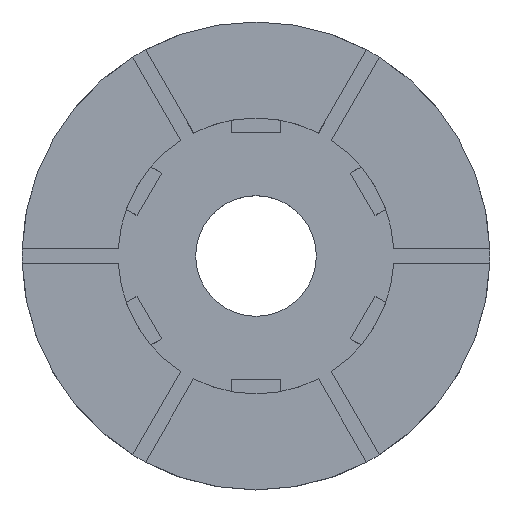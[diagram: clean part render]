
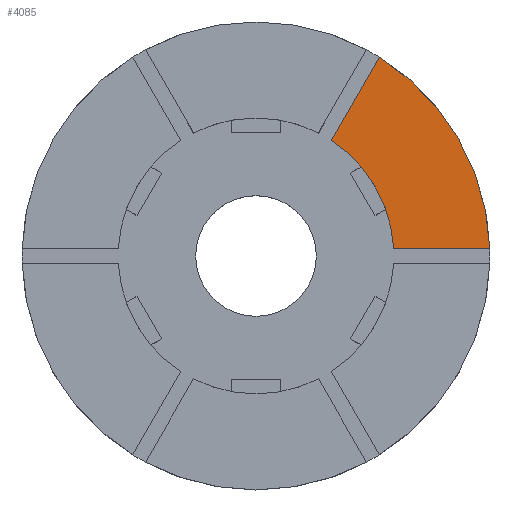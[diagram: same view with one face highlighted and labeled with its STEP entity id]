
A CAD part, top view. The second image highlights one B-rep face of the part: STEP entity #4085.
In plain terms, the highlighted planar face has unit normal (0, 0, 1).
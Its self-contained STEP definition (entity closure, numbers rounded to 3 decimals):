
#31 = CYLINDRICAL_SURFACE('',#32,9.5);
#32 = AXIS2_PLACEMENT_3D('',#33,#34,#35);
#33 = CARTESIAN_POINT('',(0.,0.,124.7));
#34 = DIRECTION('',(0.,0.,1.));
#35 = DIRECTION('',(1.,0.,-0.));
#633 = VERTEX_POINT('',#634);
#634 = CARTESIAN_POINT('',(5.007,8.073,127.5));
#647 = PLANE('',#648);
#648 = AXIS2_PLACEMENT_3D('',#649,#650,#651);
#649 = CARTESIAN_POINT('',(2.76,4.18,125.6));
#650 = DIRECTION('',(-0.866,0.5,0.));
#651 = DIRECTION('',(0.,0.,1.));
#658 = EDGE_CURVE('',#659,#633,#661,.T.);
#659 = VERTEX_POINT('',#660);
#660 = CARTESIAN_POINT('',(9.495,0.3,127.5));
#661 = SURFACE_CURVE('',#662,(#667,#674),.PCURVE_S1.);
#662 = CIRCLE('',#663,9.5);
#663 = AXIS2_PLACEMENT_3D('',#664,#665,#666);
#664 = CARTESIAN_POINT('',(0.,0.,127.5));
#665 = DIRECTION('',(0.,0.,1.));
#666 = DIRECTION('',(1.,0.,-0.));
#667 = PCURVE('',#31,#668);
#668 = DEFINITIONAL_REPRESENTATION('',(#669),#673);
#669 = LINE('',#670,#671);
#670 = CARTESIAN_POINT('',(0.,2.8));
#671 = VECTOR('',#672,1.);
#672 = DIRECTION('',(1.,0.));
#673 = ( GEOMETRIC_REPRESENTATION_CONTEXT(2) 
PARAMETRIC_REPRESENTATION_CONTEXT() REPRESENTATION_CONTEXT('2D SPACE',''
  ) );
#674 = PCURVE('',#675,#680);
#675 = PLANE('',#676);
#676 = AXIS2_PLACEMENT_3D('',#677,#678,#679);
#677 = CARTESIAN_POINT('',(0.,0.,127.5));
#678 = DIRECTION('',(0.,0.,1.));
#679 = DIRECTION('',(1.,0.,-0.));
#680 = DEFINITIONAL_REPRESENTATION('',(#681),#685);
#681 = CIRCLE('',#682,9.5);
#682 = AXIS2_PLACEMENT_2D('',#683,#684);
#683 = CARTESIAN_POINT('',(0.,0.));
#684 = DIRECTION('',(1.,0.));
#685 = ( GEOMETRIC_REPRESENTATION_CONTEXT(2) 
PARAMETRIC_REPRESENTATION_CONTEXT() REPRESENTATION_CONTEXT('2D SPACE',''
  ) );
#702 = PLANE('',#703);
#703 = AXIS2_PLACEMENT_3D('',#704,#705,#706);
#704 = CARTESIAN_POINT('',(5.,0.3,125.6));
#705 = DIRECTION('',(0.,1.,0.));
#706 = DIRECTION('',(0.,0.,1.));
#815 = CYLINDRICAL_SURFACE('',#816,5.6);
#816 = AXIS2_PLACEMENT_3D('',#817,#818,#819);
#817 = CARTESIAN_POINT('',(0.,0.,125.6));
#818 = DIRECTION('',(0.,0.,1.));
#819 = DIRECTION('',(1.,0.,-0.));
#3723 = VERTEX_POINT('',#3724);
#3724 = CARTESIAN_POINT('',(3.056,4.693,127.5));
#3743 = EDGE_CURVE('',#633,#3723,#3744,.T.);
#3744 = SURFACE_CURVE('',#3745,(#3749,#3755),.PCURVE_S1.);
#3745 = LINE('',#3746,#3747);
#3746 = CARTESIAN_POINT('',(1.51,2.015,127.5));
#3747 = VECTOR('',#3748,1.);
#3748 = DIRECTION('',(-0.5,-0.866,0.));
#3749 = PCURVE('',#647,#3750);
#3750 = DEFINITIONAL_REPRESENTATION('',(#3751),#3754);
#3751 = B_SPLINE_CURVE_WITH_KNOTS('',1,(#3752,#3753),.UNSPECIFIED.,.F.,
  .F.,(2,2),(-7.5,-2.5),.PIECEWISE_BEZIER_KNOTS.);
#3752 = CARTESIAN_POINT('',(1.9,5.));
#3753 = CARTESIAN_POINT('',(1.9,0.));
#3754 = ( GEOMETRIC_REPRESENTATION_CONTEXT(2) 
PARAMETRIC_REPRESENTATION_CONTEXT() REPRESENTATION_CONTEXT('2D SPACE',''
  ) );
#3755 = PCURVE('',#675,#3756);
#3756 = DEFINITIONAL_REPRESENTATION('',(#3757),#3760);
#3757 = B_SPLINE_CURVE_WITH_KNOTS('',1,(#3758,#3759),.UNSPECIFIED.,.F.,
  .F.,(2,2),(-7.5,-2.5),.PIECEWISE_BEZIER_KNOTS.);
#3758 = CARTESIAN_POINT('',(5.26,8.51));
#3759 = CARTESIAN_POINT('',(2.76,4.18));
#3760 = ( GEOMETRIC_REPRESENTATION_CONTEXT(2) 
PARAMETRIC_REPRESENTATION_CONTEXT() REPRESENTATION_CONTEXT('2D SPACE',''
  ) );
#3765 = EDGE_CURVE('',#3766,#3723,#3768,.T.);
#3766 = VERTEX_POINT('',#3767);
#3767 = CARTESIAN_POINT('',(5.592,0.3,127.5));
#3768 = SURFACE_CURVE('',#3769,(#3774,#3781),.PCURVE_S1.);
#3769 = CIRCLE('',#3770,5.6);
#3770 = AXIS2_PLACEMENT_3D('',#3771,#3772,#3773);
#3771 = CARTESIAN_POINT('',(0.,0.,127.5));
#3772 = DIRECTION('',(0.,0.,1.));
#3773 = DIRECTION('',(1.,0.,-0.));
#3774 = PCURVE('',#815,#3775);
#3775 = DEFINITIONAL_REPRESENTATION('',(#3776),#3780);
#3776 = LINE('',#3777,#3778);
#3777 = CARTESIAN_POINT('',(0.,1.9));
#3778 = VECTOR('',#3779,1.);
#3779 = DIRECTION('',(1.,0.));
#3780 = ( GEOMETRIC_REPRESENTATION_CONTEXT(2) 
PARAMETRIC_REPRESENTATION_CONTEXT() REPRESENTATION_CONTEXT('2D SPACE',''
  ) );
#3781 = PCURVE('',#675,#3782);
#3782 = DEFINITIONAL_REPRESENTATION('',(#3783),#3787);
#3783 = CIRCLE('',#3784,5.6);
#3784 = AXIS2_PLACEMENT_2D('',#3785,#3786);
#3785 = CARTESIAN_POINT('',(0.,0.));
#3786 = DIRECTION('',(1.,0.));
#3787 = ( GEOMETRIC_REPRESENTATION_CONTEXT(2) 
PARAMETRIC_REPRESENTATION_CONTEXT() REPRESENTATION_CONTEXT('2D SPACE',''
  ) );
#4067 = EDGE_CURVE('',#659,#3766,#4068,.T.);
#4068 = SURFACE_CURVE('',#4069,(#4073,#4079),.PCURVE_S1.);
#4069 = LINE('',#4070,#4071);
#4070 = CARTESIAN_POINT('',(2.5,0.3,127.5));
#4071 = VECTOR('',#4072,1.);
#4072 = DIRECTION('',(-1.,0.,0.));
#4073 = PCURVE('',#702,#4074);
#4074 = DEFINITIONAL_REPRESENTATION('',(#4075),#4078);
#4075 = B_SPLINE_CURVE_WITH_KNOTS('',1,(#4076,#4077),.UNSPECIFIED.,.F.,
  .F.,(2,2),(-7.,-2.5),.PIECEWISE_BEZIER_KNOTS.);
#4076 = CARTESIAN_POINT('',(1.9,4.5));
#4077 = CARTESIAN_POINT('',(1.9,0.));
#4078 = ( GEOMETRIC_REPRESENTATION_CONTEXT(2) 
PARAMETRIC_REPRESENTATION_CONTEXT() REPRESENTATION_CONTEXT('2D SPACE',''
  ) );
#4079 = PCURVE('',#675,#4080);
#4080 = DEFINITIONAL_REPRESENTATION('',(#4081),#4084);
#4081 = B_SPLINE_CURVE_WITH_KNOTS('',1,(#4082,#4083),.UNSPECIFIED.,.F.,
  .F.,(2,2),(-7.,-2.5),.PIECEWISE_BEZIER_KNOTS.);
#4082 = CARTESIAN_POINT('',(9.5,0.3));
#4083 = CARTESIAN_POINT('',(5.,0.3));
#4084 = ( GEOMETRIC_REPRESENTATION_CONTEXT(2) 
PARAMETRIC_REPRESENTATION_CONTEXT() REPRESENTATION_CONTEXT('2D SPACE',''
  ) );
#4085 = ADVANCED_FACE('',(#4086),#675,.T.);
#4086 = FACE_BOUND('',#4087,.T.);
#4087 = EDGE_LOOP('',(#4088,#4089,#4090,#4091));
#4088 = ORIENTED_EDGE('',*,*,#4067,.F.);
#4089 = ORIENTED_EDGE('',*,*,#658,.T.);
#4090 = ORIENTED_EDGE('',*,*,#3743,.T.);
#4091 = ORIENTED_EDGE('',*,*,#3765,.F.);
